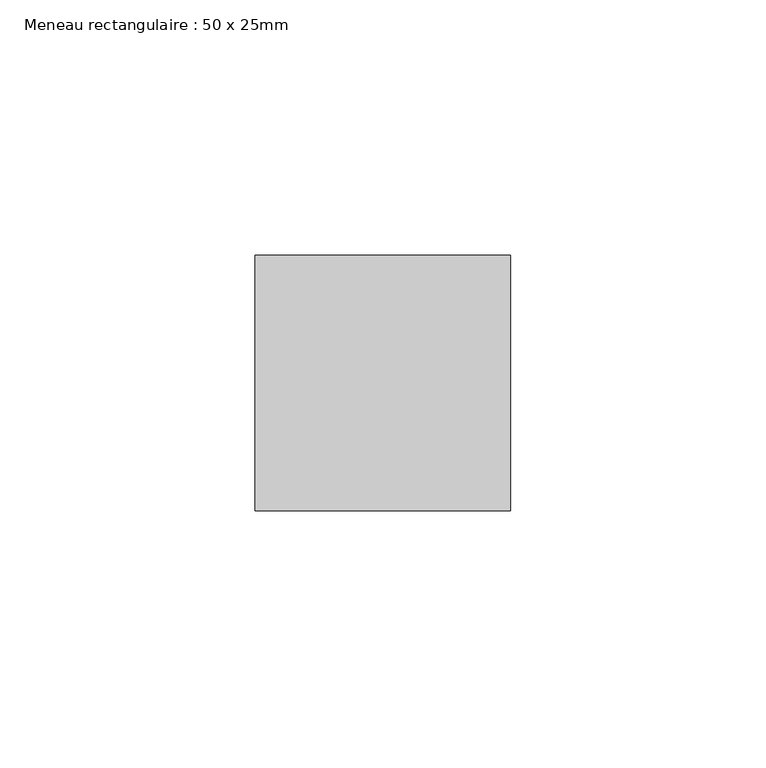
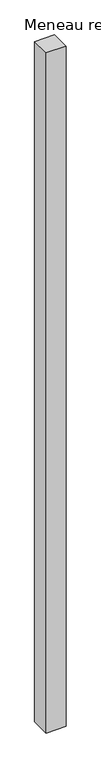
"""IFC4 building model written with IfcOpenShell, lengths in millimetres: member geometry, Meneau rectangulaire : 50 x 25mm."""

import ifcopenshell
import ifcopenshell.guid

model = None  # the IFC model being written
_history = None  # IfcOwnerHistory: only IFC2X3 demands one
_inside = {}  # id of a spatial element -> (the spatial element, [elements in it])
_under = {}  # id of a project, library or spatial element -> (it, [spatial elements below it])
_declared = {}  # id of a project -> (the project, [libraries it declares])
_typed = {}  # id of a type object -> (the type object, [elements of that type])
_made_of = {}  # id of a material, layer set ... -> (it, [elements and type objects made of it])


def new_model(schema):
    """Start an empty IFC model of exactly this schema.

    Asked for "IFC4X3", IfcOpenShell would pick the latest addendum, in which some entities
    have other attributes; the version numbers below select the first issue.
    IFC2X3 requires an IfcOwnerHistory on every rooted entity: one is made here for all.
    """
    global model, _history
    if schema == "IFC4X3":
        model = ifcopenshell.file(schema_version=(4, 3, 0, 0))
    else:
        model = ifcopenshell.file(schema=schema)
    _inside.clear()
    _under.clear()
    _declared.clear()
    _typed.clear()
    _made_of.clear()
    _history = None
    if model.schema == "IFC2X3":
        org = make("IfcOrganization", Name="unknown")
        user = make(
            "IfcPersonAndOrganization",
            ThePerson=make("IfcPerson", FamilyName="unknown"),
            TheOrganization=org,
        )
        app = make(
            "IfcApplication",
            ApplicationDeveloper=org,
            Version="unknown",
            ApplicationFullName="unknown",
            ApplicationIdentifier="unknown",
        )
        _history = make(
            "IfcOwnerHistory",
            OwningUser=user,
            OwningApplication=app,
            ChangeAction="ADDED",
            CreationDate=0,
        )
    return model


def make(cls, **values):
    """One entity of the class cls with the attributes given. An attribute that is None is left unset."""
    return model.create_entity(
        cls, **{name: value for name, value in values.items() if value is not None}
    )


def rooted(cls, **values):
    """An entity with a GlobalId (a new one), such as an element, a storey or a relation."""
    return make(cls, GlobalId=ifcopenshell.guid.new(), OwnerHistory=_history, **values)


def si_unit(unit_type, name, prefix=None):
    """IfcSIUnit, for example si_unit("LENGTHUNIT", "METRE", prefix="MILLI")."""
    return make("IfcSIUnit", UnitType=unit_type, Prefix=prefix, Name=name)


def assignment(units):
    """IfcUnitAssignment: the units of a project."""
    return None if units is None else make("IfcUnitAssignment", Units=units)


def point(xyz):
    """IfcCartesianPoint."""
    return None if xyz is None else make("IfcCartesianPoint", Coordinates=xyz)


def direction(xyz):
    """IfcDirection."""
    return None if xyz is None else make("IfcDirection", DirectionRatios=xyz)


def frame(location, z_axis=None, x_axis=None):
    """IfcAxis2Placement3D, a coordinate frame: its origin and axes. An axis left out is left unset."""
    return make(
        "IfcAxis2Placement3D",
        Location=point(location),
        Axis=direction(z_axis),
        RefDirection=direction(x_axis),
    )


def origin():
    """The frame at (0, 0, 0) with its axes left unset."""
    return frame((0.0, 0.0, 0.0))


def place(relative_to, where):
    """IfcLocalPlacement: puts the frame where relative to a parent placement (None: the world)."""
    return make(
        "IfcLocalPlacement", PlacementRelTo=relative_to, RelativePlacement=where
    )


def context(
    kind, dimensions, precision=None, world=None, true_north=None, identifier=None
):
    """IfcGeometricRepresentationContext, for example the 3D "Model" context."""
    return make(
        "IfcGeometricRepresentationContext",
        ContextIdentifier=identifier,
        ContextType=kind,
        CoordinateSpaceDimension=dimensions,
        Precision=precision,
        WorldCoordinateSystem=world,
        TrueNorth=true_north,
    )


def project(units=None, contexts=None):
    """IfcProject with its units and contexts."""
    return rooted(
        "IfcProject",
        Name="project",
        RepresentationContexts=contexts,
        UnitsInContext=assignment(units),
    )


def spatial(cls, under=None, at=None, **own):
    """A site, building, storey or space (cls), placed at a placement, below another one or the project."""
    s = rooted(cls, ObjectPlacement=at, **own)
    if under is not None:
        _under.setdefault(under.id(), (under, []))[1].append(s)
    return s


def polyline(points):
    """IfcPolyline through the points."""
    return make("IfcPolyline", Points=[point(p) for p in points])


def outline(outer, holes=None, kind="AREA"):
    """IfcArbitraryClosedProfileDef: a profile drawn as a closed curve; with holes, ...WithVoids."""
    if holes is None:
        return make("IfcArbitraryClosedProfileDef", ProfileType=kind, OuterCurve=outer)
    return make(
        "IfcArbitraryProfileDefWithVoids",
        ProfileType=kind,
        OuterCurve=outer,
        InnerCurves=holes,
    )


def extrude(swept, where, along, depth):
    """IfcExtrudedAreaSolid: the profile swept, set in the frame where, extruded along a direction by depth."""
    return make(
        "IfcExtrudedAreaSolid",
        SweptArea=swept,
        Position=where,
        ExtrudedDirection=direction(along),
        Depth=depth,
    )


def shape(context_of_items, identifier, shape_type, items):
    """IfcShapeRepresentation: the items that make up one representation, for example the "Body"."""
    return make(
        "IfcShapeRepresentation",
        ContextOfItems=context_of_items,
        RepresentationIdentifier=identifier,
        RepresentationType=shape_type,
        Items=items,
    )


def source(mapping_origin, context_of_items, identifier, shape_type, items):
    """IfcRepresentationMap: a shape defined once, which mapped items show again and again."""
    return make(
        "IfcRepresentationMap",
        MappingOrigin=mapping_origin,
        MappedRepresentation=shape(context_of_items, identifier, shape_type, items),
    )


def transform(
    local_origin,
    x_axis=None,
    y_axis=None,
    z_axis=None,
    scale=None,
    scale2=None,
    scale3=None,
    uniform=True,
):
    """IfcCartesianTransformationOperator3D, or its non-uniform kind. x_axis, y_axis, z_axis: its Axis1, 2, 3."""
    if uniform:
        return make(
            "IfcCartesianTransformationOperator3D",
            Axis1=direction(x_axis),
            Axis2=direction(y_axis),
            LocalOrigin=point(local_origin),
            Scale=scale,
            Axis3=direction(z_axis),
        )
    return make(
        "IfcCartesianTransformationOperator3DnonUniform",
        Axis1=direction(x_axis),
        Axis2=direction(y_axis),
        LocalOrigin=point(local_origin),
        Scale=scale,
        Axis3=direction(z_axis),
        Scale2=scale2,
        Scale3=scale3,
    )


def mapped(mapping_source, mapping_target):
    """IfcMappedItem: shows the shape of a source again, moved by a transform."""
    return make(
        "IfcMappedItem", MappingSource=mapping_source, MappingTarget=mapping_target
    )


def made_of(thing, what):
    """Note that an element or type object is made of a material, layer set ...; save() writes the relation."""
    if what is not None:
        _made_of.setdefault(what.id(), (what, []))[1].append(thing)
    return thing


def element(
    cls,
    number,
    at=None,
    inside=None,
    cuts=None,
    type_object=None,
    material=None,
    context=None,
    identifier="Body",
    shape_type=None,
    held_by="IfcProductDefinitionShape",
    body=None,
    shapes=None,
    **own,
):
    """One element of the class cls, such as IfcWall. Its Tag is "e" and its number.

    at: its placement. inside: the storey or other place that contains it. cuts: it is an
    opening in that element (IfcRelVoidsElement). A single representation is given by context,
    identifier, shape_type and body (its items); several are given by shapes. held_by: the class
    of the entity that holds the representations. save() writes the other relations.
    """
    e = rooted(cls, Tag="e%d" % number, ObjectPlacement=at, **own)
    if body is not None:
        shapes = [shape(context, identifier, shape_type, body)]
    if shapes is not None:
        e.Representation = make(held_by, Representations=shapes)
    if inside is not None:
        _inside.setdefault(inside.id(), (inside, []))[1].append(e)
    if cuts is not None:
        rooted(
            "IfcRelVoidsElement", RelatingBuildingElement=cuts, RelatedOpeningElement=e
        )
    if type_object is not None:
        _typed.setdefault(type_object.id(), (type_object, []))[1].append(e)
    return made_of(e, material)


def aggregate(whole, parts):
    """IfcRelAggregates: a whole, such as a stair, and the parts it consists of."""
    return rooted("IfcRelAggregates", RelatingObject=whole, RelatedObjects=parts)


def save(model, path):
    """Write the relations noted so far, then the file.

    IfcRelAggregates (storeys below a building ...), IfcRelContainedInSpatialStructure (elements
    in a storey), IfcRelDefinesByType, IfcRelAssociatesMaterial and IfcRelDeclares: one each for
    every whole, place, type object, material and project.
    """
    for whole, parts in _under.values():
        aggregate(whole, parts)
    for where, things in _inside.values():
        rooted(
            "IfcRelContainedInSpatialStructure",
            RelatedElements=things,
            RelatingStructure=where,
        )
    for kind, things in _typed.values():
        rooted("IfcRelDefinesByType", RelatedObjects=things, RelatingType=kind)
    for what, things in _made_of.values():
        rooted("IfcRelAssociatesMaterial", RelatedObjects=things, RelatingMaterial=what)
    for by, libraries in _declared.values():
        rooted("IfcRelDeclares", RelatingContext=by, RelatedDefinitions=libraries)
    model.write(path)


def meneau_rectangulaire_50_x_25mm_ed99c1f3(model_context):
    return source(origin(), model_context, "Body", "SweptSolid", [
        extrude(outline(polyline([(0.0, 0.0), (0.0, -50.0), (-50.0, -50.0), (-50.0, 0.0), (0.0, 0.0)])), frame((0.0, 0.0, -1798.5606896), z_axis=(0.0, 0.0, 1.0), x_axis=(1.0, 0.0, 0.0)), (0.0, 0.0, 1.0), 1798.5606896),
    ])


if __name__ == "__main__":
    model = new_model("IFC4")
    model_context = context("Model", 3, world=origin())
    ifc_project = project(units=[si_unit("LENGTHUNIT", "METRE", prefix="MILLI")], contexts=[model_context])
    site = spatial("IfcSite", under=ifc_project)
    building = spatial("IfcBuilding", under=site)
    placement = place(None, origin())
    meneau_rectangulaire_50_x_25mm_shape = meneau_rectangulaire_50_x_25mm_ed99c1f3(model_context)
    element("IfcMember", 1, ObjectType="Meneau rectangulaire : 50 x 25mm", at=placement, inside=building, context=model_context, shape_type="MappedRepresentation", body=[
        mapped(meneau_rectangulaire_50_x_25mm_shape, transform((0.0, 0.0, 0.0), x_axis=(1.0, 0.0, 0.0), y_axis=(0.0, 1.0, 0.0), z_axis=(0.0, 0.0, 1.0))),
    ])
    save(model, "model.ifc")
